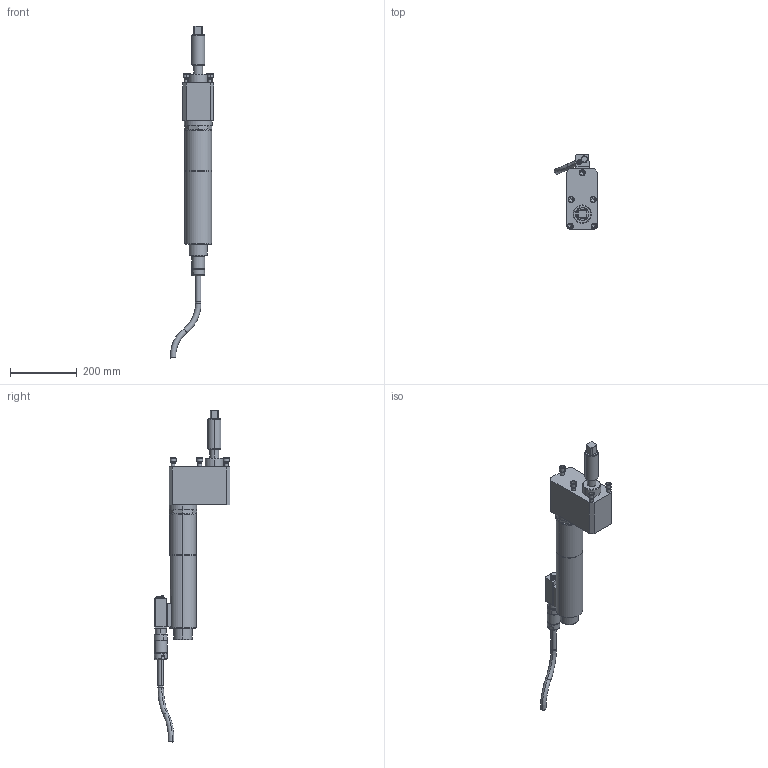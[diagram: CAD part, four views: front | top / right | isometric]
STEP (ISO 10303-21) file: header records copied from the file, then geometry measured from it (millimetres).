
FILE_DESCRIPTION(('CATIA V5 STEP'),'2;1');
FILE_NAME('O:\3D-Schrauber\stp\7920569_ECR344_AO3425_AllCATPart.stp','2010-05-05T11:12:57+00:00',('none'),('none'),'CATIA Version 5 Release 19 SP 3 (IN-10)','CATIA V5 STEP AP214','none');
FILE_SCHEMA(('AUTOMOTIVE_DESIGN { 1 0 10303 214 1 1 1 1 }'));
Length unit declared in the file: millimetre
Products named in the file (1): 7920569_ECR344_AO3425_AllCATPart
Bounding box: 130.32 x 227.91 x 997.16 mm (x, y, z)
Volume: 4474809.4 mm3; surface area: 318017.3 mm2
Topology: 13 solids, 13 shells, 361 faces, 812 edges, 516 vertices
Faces by surface type: plane 156, cylinder 125, cone 48, torus 32
Entity records: 9655 total; most frequent: CARTESIAN_POINT 2018, ORIENTED_EDGE 1624, DIRECTION 1286, EDGE_CURVE 812, AXIS2_PLACEMENT_3D 640, VERTEX_POINT 516, EDGE_LOOP 400, VECTOR 382
